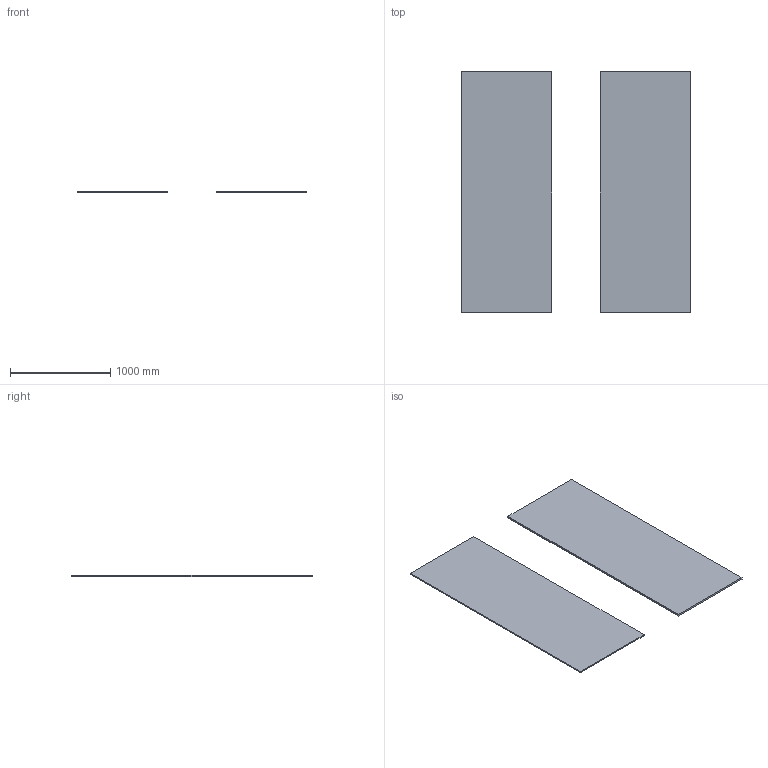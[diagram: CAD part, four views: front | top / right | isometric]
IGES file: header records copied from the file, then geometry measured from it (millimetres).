
Start section: Data from Parasolid IGES Translator 22.0.50, Copyright(c) 2006 Siemens P LM Software. All Rights Reserved.
Global section: file name: noorth-bathtub-wall covering panels_5474-5475.igs; native system: By Siemens PLM Incorporated; preprocessor: XPlus GENERIC/IGES 22.0.50; author: Noname; organization: Noname; date: 20250706.164850; units: metre
Bounding box: 2280.92 x 2400 x 19 mm (x, y, z)
Volume: 66960000 mm3; surface area: 8844600 mm2
Topology: 2 solids, 2 shells, 12 faces, 24 edges, 16 vertices
Faces by surface type: plane 12
